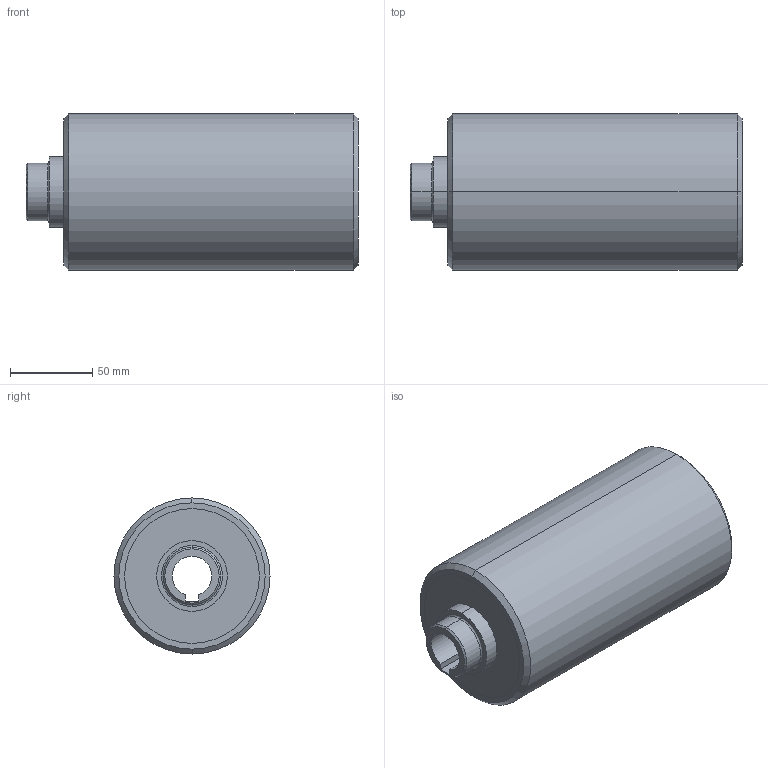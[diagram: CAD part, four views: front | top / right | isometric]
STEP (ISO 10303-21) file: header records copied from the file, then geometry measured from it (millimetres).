
FILE_DESCRIPTION (( 'STEP AP214' ), '1' );
FILE_NAME ('12036304730203.STEP', '2026-04-08T12:50:45', ( '20241006' ), ( '' ), 'SwSTEP 2.0', 'SolidWorks 2021', '' );
FILE_SCHEMA (( 'AUTOMOTIVE_DESIGN' ));
Length unit declared in the file: millimetre
Products named in the file (1): 12036304730203
Bounding box: 202 x 95 x 95 mm (x, y, z)
Volume: 531925.7 mm3; surface area: 110908 mm2
Topology: 1 solids, 1 shells, 34 faces, 74 edges, 48 vertices
Faces by surface type: cylinder 14, plane 12, cone 6, torus 2
Entity records: 1074 total; most frequent: DIRECTION 186, CARTESIAN_POINT 157, ORIENTED_EDGE 148, AXIS2_PLACEMENT_3D 77, EDGE_CURVE 74, VERTEX_POINT 48, EDGE_LOOP 42, CIRCLE 42
